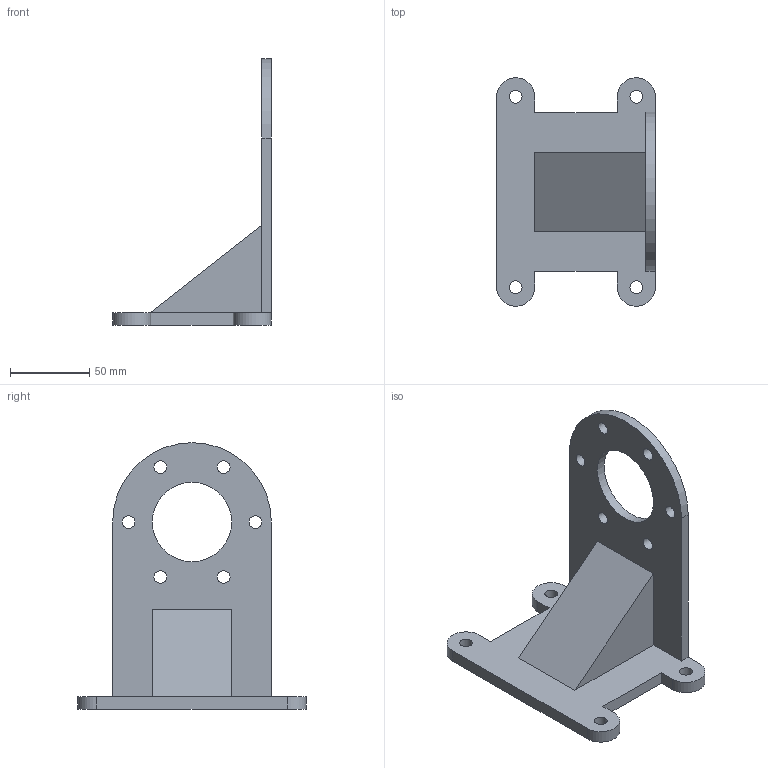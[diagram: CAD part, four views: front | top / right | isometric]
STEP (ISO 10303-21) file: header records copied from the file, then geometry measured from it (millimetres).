
FILE_DESCRIPTION(('STEP AP242'), '1');
FILE_NAME('栺鍣罻', '', ('UNSPECIFIED'), ('UNSPECIFIED'), 'C3D Converter', 'C3D Toolkit', '');
FILE_SCHEMA(('AP242_MANAGED_MODEL_BASED_3D_ENGINEERING_MIM_LF { 1 0 10303 442 1 1 4 }'));
Length unit declared in the file: millimetre
Bounding box: 100 x 144 x 168 mm (x, y, z)
Volume: 265531.1 mm3; surface area: 59294.7 mm2
Topology: 1 solids, 1 shells, 32 faces, 90 edges, 60 vertices
Faces by surface type: plane 16, cylinder 16
Full cylindrical faces by diameter (mm): 8 x10, 50 x1
Entity records: 1075 total; most frequent: DIRECTION 177, CARTESIAN_POINT 172, ORIENTED_EDGE 158, EDGE_CURVE 79, AXIS2_PLACEMENT_3D 65, EDGE_LOOP 65, VERTEX_POINT 60, LINE 47
